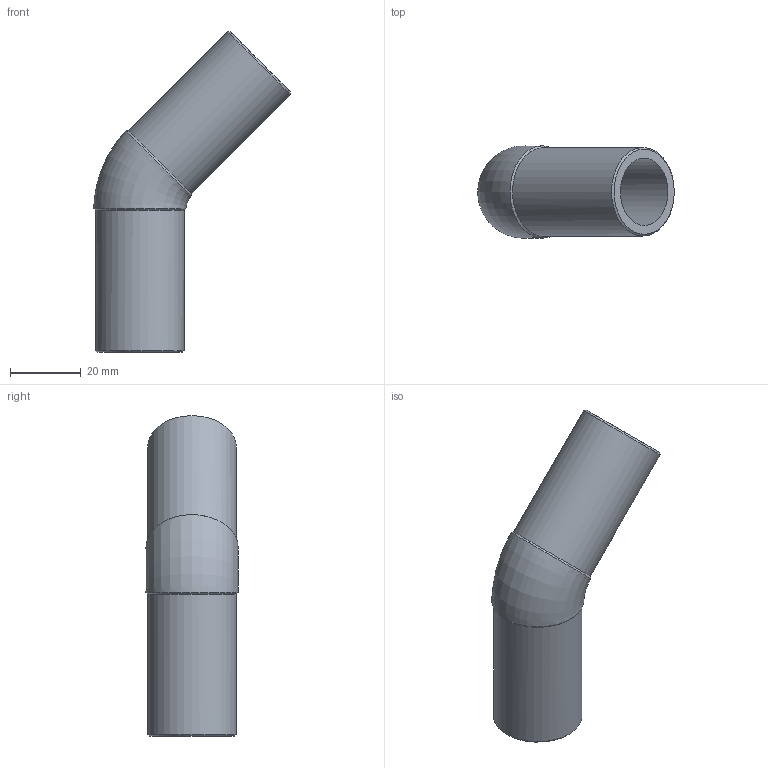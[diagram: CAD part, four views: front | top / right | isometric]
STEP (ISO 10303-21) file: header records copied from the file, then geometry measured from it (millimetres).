
FILE_DESCRIPTION(/* description */ ('Unknown'),/* implementation_level */ '2;1');
FILE_NAME(/* name */ 'G4P025C.H',/* time_stamp */ '2022-01-19T09:00:52+01:00',/* author */ ('Unknown'),/* organization */ ('Unknown'),/* preprocessor_version */ 'ST-DEVELOPER v18.1',/* originating_system */ 'Solid Edge',/* authorisation */ 'Unknown');
FILE_SCHEMA (('AUTOMOTIVE_DESIGN {1 0 10303 214 3 1 1}'));
Length unit declared in the file: millimetre
Products named in the file (1): G4P025C.H
Bounding box: 55.42 x 25.99 x 90.43 mm (x, y, z)
Volume: 20359.8 mm3; surface area: 13603.7 mm2
Topology: 1 solids, 1 shells, 12 faces, 30 edges, 20 vertices
Faces by surface type: cone 4, cylinder 4, plane 2, torus 2
Full cylindrical faces by diameter (mm): 19 x2, 25 x2
Entity records: 354 total; most frequent: CARTESIAN_POINT 94, DIRECTION 48, ORIENTED_EDGE 34, AXIS2_PLACEMENT_3D 24, EDGE_LOOP 23, FACE_BOUND 23, EDGE_CURVE 17, VERTEX_POINT 16
